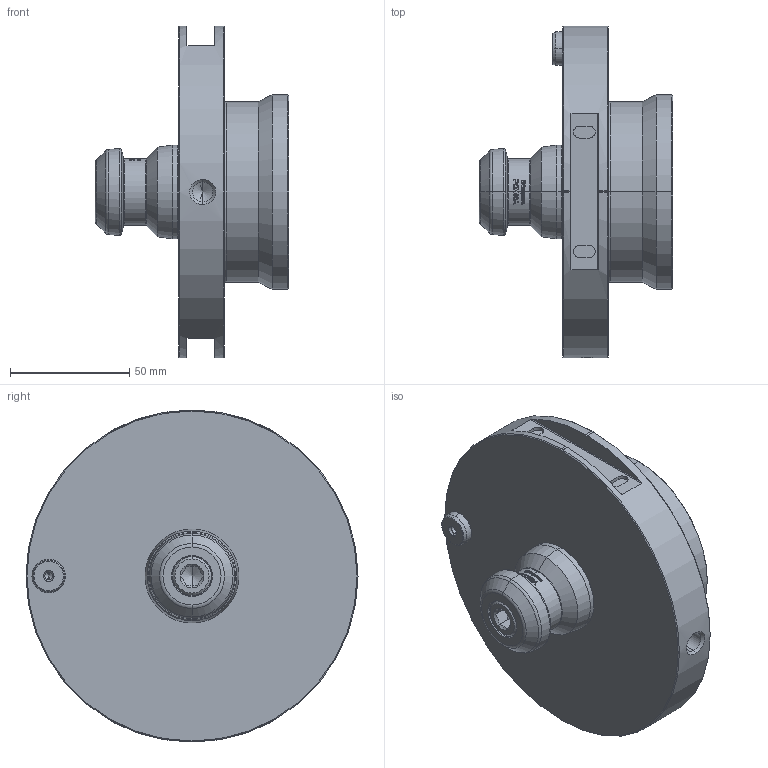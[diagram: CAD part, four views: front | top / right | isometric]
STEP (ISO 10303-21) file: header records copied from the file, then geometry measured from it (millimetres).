
FILE_DESCRIPTION (( 'STEP AP203' ), '1' );
FILE_NAME ('61P296279.STEP', '2024-04-26T07:06:22', ( '' ), ( '' ), 'SwSTEP 2.0', 'SolidWorks 2022', '' );
FILE_SCHEMA (( 'CONFIG_CONTROL_DESIGN' ));
Length unit declared in the file: millimetre
Products named in the file (5): 61P493325; 61P293306; 0030110045; 61P296279; 61P864260
Assembly tree (4 placements, depth 2):
  61P296279
    61P864260
    61P293306
    61P493325
    0030110045
Bounding box: 81 x 139 x 139 mm (x, y, z)
Volume: 369900.4 mm3; surface area: 72865.2 mm2
Topology: 4 solids, 4 shells, 451 faces, 1767 edges, 1363 vertices
Faces by surface type: plane 146, cone 104, cylinder 103, bspline 80, torus 18
Entity records: 22849 total; most frequent: CARTESIAN_POINT 9282, ORIENTED_EDGE 3482, DIRECTION 2032, EDGE_CURVE 1741, VERTEX_POINT 1363, AXIS2_PLACEMENT_3D 714, VECTOR 604, LINE 604
